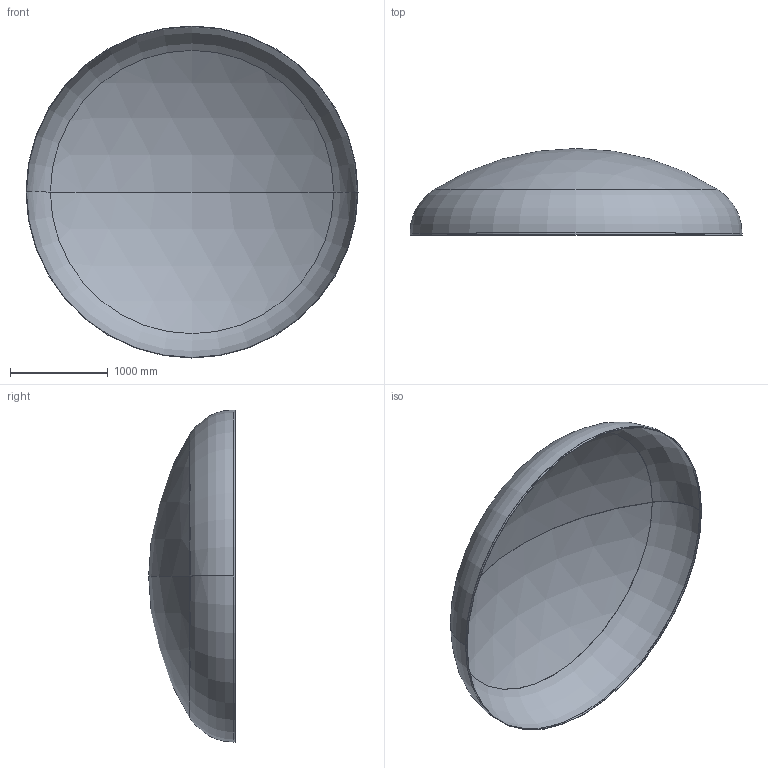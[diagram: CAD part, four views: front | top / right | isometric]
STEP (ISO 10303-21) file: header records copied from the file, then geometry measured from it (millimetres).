
FILE_DESCRIPTION (( 'STEP AP203' ), '1' );
FILE_NAME ('DIN 28013 Korbbogenform_-_Boden DIN 28013 - 3400 x 20 - I - s=4.step', '2016-07-01T19:05:59', ( '' ), ( '' ), 'SwSTEP 2.0', 'SolidWorks 2013', '' );
FILE_SCHEMA (( 'CONFIG_CONTROL_DESIGN' ));
Length unit declared in the file: millimetre
Products named in the file (1): DIN 28013 Korbbogenform_-_Boden DIN 28013 - 3400 x 20 - I - s=4
Bounding box: 3400 x 887.45 x 3400 mm (x, y, z)
Volume: 51105206.9 mm3; surface area: 25595301.8 mm2
Topology: 1 solids, 1 shells, 13 faces, 24 edges, 14 vertices
Faces by surface type: torus 4, cylinder 4, sphere 4, plane 1
Entity records: 407 total; most frequent: DIRECTION 72, CARTESIAN_POINT 52, ORIENTED_EDGE 48, AXIS2_PLACEMENT_3D 34, EDGE_CURVE 24, CIRCLE 20, VERTEX_POINT 14, EDGE_LOOP 14
